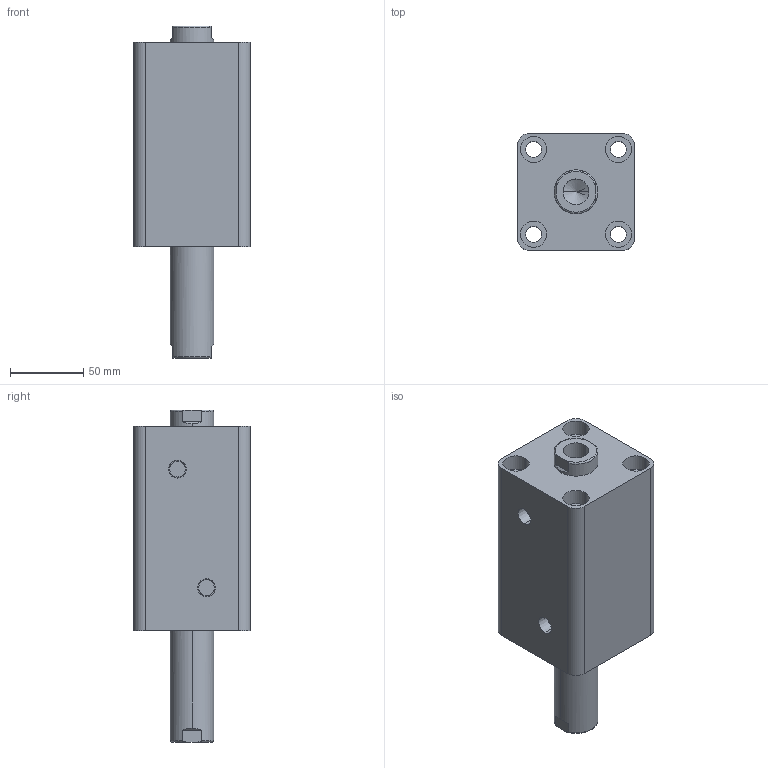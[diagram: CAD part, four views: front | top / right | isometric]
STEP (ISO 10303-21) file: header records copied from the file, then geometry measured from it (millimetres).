
FILE_DESCRIPTION (( 'STEP AP203' ), '1' );
FILE_NAME ('HTB-SW50-65N.STEP', '2019-10-07T09:22:52', ( '微软用户' ), ( '微软中国' ), 'SwSTEP 2.0', 'SolidWorks 2012', '' );
FILE_SCHEMA (( 'CONFIG_CONTROL_DESIGN' ));
Length unit declared in the file: millimetre
Products named in the file (3): HTB-SW50-65N; HTB-SW50-65N活塞杆; HTB-SW50-65掛极
Assembly tree (2 placements, depth 2):
  HTB-SW50-65N
    HTB-SW50-65掛极
    HTB-SW50-65N活塞杆
Bounding box: 80 x 80 x 227 mm (x, y, z)
Volume: 785495.7 mm3; surface area: 125829.5 mm2
Topology: 2 solids, 2 shells, 100 faces, 228 edges, 146 vertices
Faces by surface type: cylinder 48, plane 32, torus 12, cone 8
Entity records: 3237 total; most frequent: CARTESIAN_POINT 595, DIRECTION 542, ORIENTED_EDGE 448, AXIS2_PLACEMENT_3D 229, EDGE_CURVE 224, VERTEX_POINT 146, EDGE_LOOP 128, CIRCLE 124
